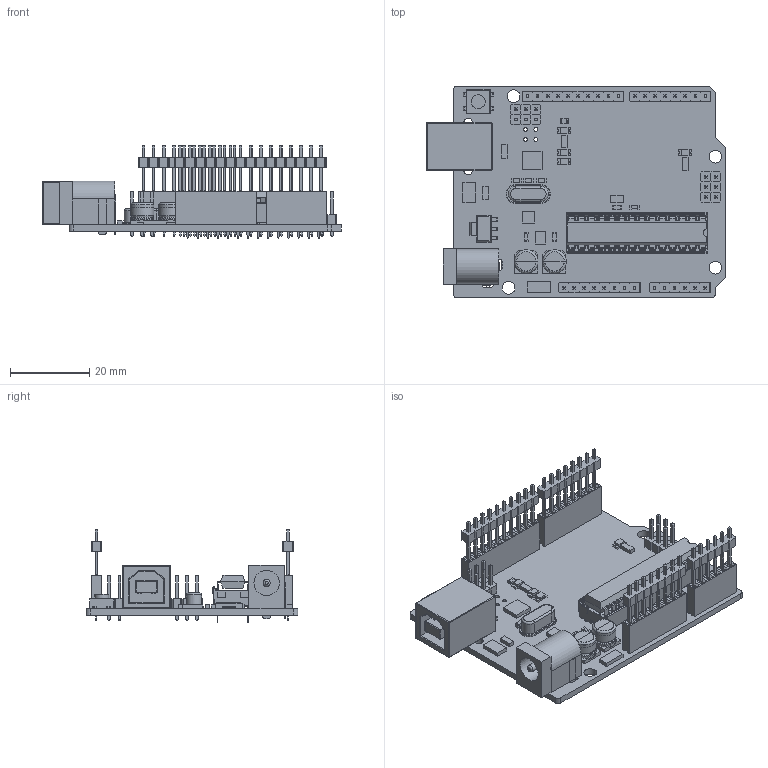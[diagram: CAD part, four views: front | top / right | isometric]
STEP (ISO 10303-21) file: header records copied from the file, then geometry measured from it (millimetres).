
FILE_DESCRIPTION(('FreeCAD Model'),'2;1');
FILE_NAME('Open CASCADE Shape Model','2024-02-24T12:56:54',(''),(''), 'Open CASCADE STEP processor 7.6','FreeCAD','Unknown');
FILE_SCHEMA(('AUTOMOTIVE_DESIGN { 1 0 10303 214 1 1 1 1 }'));
Length unit declared in the file: millimetre
Products named in the file (211): project_Arduino_shield; PinHeader_1x08_P254mm_Vertical; PinHeader_1x06_P254mm_Vertical001; PinHeader_1x10_P254mm_Vertical; PinHeader_1x08_P254mm_Vertical001; UNO-TH_Rev3e; Board_Geoms_a3ee; Pcb_a3ee; Step_Virtual_Models_a3ee; TopV_a3ee; U1_AMS1117_1ae1255463c3; Body; Pins004; Pins; Pins001; Pins002; Pins003; C11_Cap_SMD_0603_eef68f7fe91c; Body001; Body004; Body002; Body003; C11_Cap_SMD_0603_eef68f7fe91c001; Body008; X1_Barrel_jack_8cc6500cd5d5; Body009; Body012; Body010; Body011; C4_Resistor_805_779dee7aa916; Body013; Pins007; Pins005; Pins006; BlackBody; C11_Cap_SMD_0603_eef68f7fe91c002; Body017; TX0_LED_1206_7e8bbc10bf43; Pads; Bulbe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
Assembly tree (252 placements, depth 7):
  project_Arduino_shield
    PinHeader_1x08_P254mm_Vertical
    PinHeader_1x06_P254mm_Vertical001
    PinHeader_1x10_P254mm_Vertical
    PinHeader_1x08_P254mm_Vertical001
    UNO-TH_Rev3e
      Board_Geoms_a3ee
        Pcb_a3ee
      Step_Virtual_Models_a3ee
        TopV_a3ee
          U1_AMS1117_1ae1255463c3
            Body
            Pins004
              Pins
              Pins001
              Pins002
              Pins003
          C11_Cap_SMD_0603_eef68f7fe91c
            Body001
            Body004
              Body002
              Body003
          C11_Cap_SMD_0603_eef68f7fe91c001
            Body001
            Body008
              Body002
              Body003
          X1_Barrel_jack_8cc6500cd5d5
            Body009
            Body012
              Body010
              Body011
          C4_Resistor_805_779dee7aa916
            Body013
            Pins007
              Pins005
              Pins006
            BlackBody
          C11_Cap_SMD_0603_eef68f7fe91c002
            Body001
            Body017
              Body002
              Body003
          TX0_LED_1206_7e8bbc10bf43
            Pads
            Bulbe
          F1_Resistor_1206_24c1ba6f4636
            Body018
            Pins010
              Pins008
              Pins009
            BlackBody001
          POWER0_PinSocket_P2.54mm_1x08_8a34eea55e43
            Body027
              Body019
              Body020
              Body021
              Body022
              Body023
              Body024
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Bounding box: 75.27 x 53.34 x 23.5 mm (x, y, z)
Volume: 13458.4 mm3; surface area: 21926.8 mm2
Topology: 198 solids, 198 shells, 3801 faces, 9018 edges, 5654 vertices
Faces by surface type: plane 3336, cylinder 396, sphere 50, torus 14, bspline 4, revolution 1
Full cylindrical faces by diameter (mm): 0.85 x62, 0.95 x20, 1.8 x1, 2.2 x2, 3.2 x4, 3.5 x1, 5.9 x4, 6.4 x1
Entity records: 104802 total; most frequent: CARTESIAN_POINT 16605, ORIENTED_EDGE 15710, DIRECTION 15646, EDGE_CURVE 7855, LINE 7109, VECTOR 7109, VERTEX_POINT 4964, AXIS2_PLACEMENT_3D 4268
